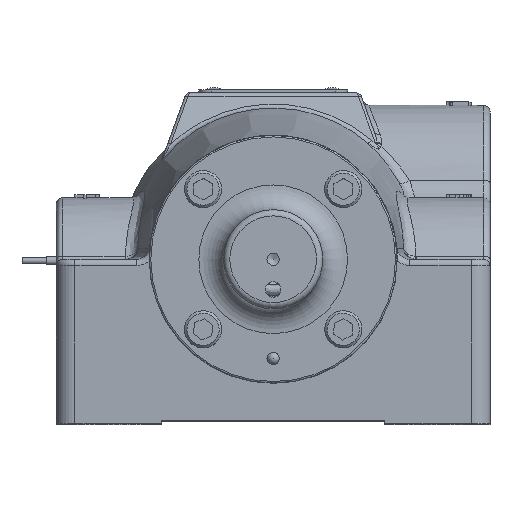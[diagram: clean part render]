
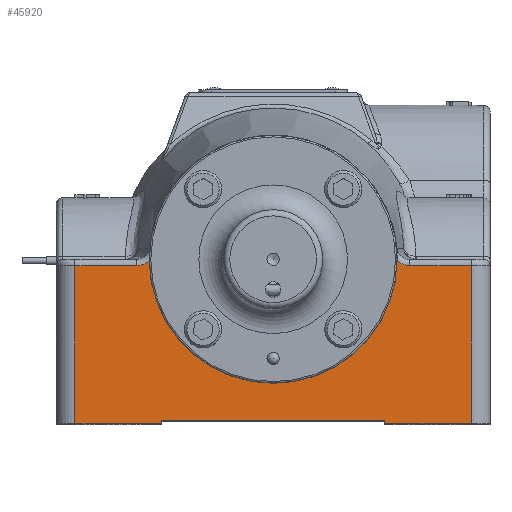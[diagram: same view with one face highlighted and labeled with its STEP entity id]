
A CAD part, top view. The second image highlights one B-rep face of the part: STEP entity #45920.
In plain terms, the highlighted planar face has unit normal (0, 0, 1).
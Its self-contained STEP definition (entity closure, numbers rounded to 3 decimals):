
#3918=CIRCLE('',#50378,3.178);
#6777=FACE_OUTER_BOUND('',#9621,.T.);
#9621=EDGE_LOOP('',(#38833,#38834,#38835,#38836,#38837,#38838,#38839,#38840,
#38841,#38842,#38843,#38844));
#12133=LINE('',#84614,#14877);
#12199=LINE('',#85757,#14943);
#12204=LINE('',#85770,#14948);
#12207=LINE('',#85774,#14951);
#12208=LINE('',#85776,#14952);
#12220=LINE('',#85828,#14964);
#12226=LINE('',#85885,#14970);
#12228=LINE('',#86059,#14972);
#12236=LINE('',#86305,#14980);
#14877=VECTOR('',#61007,1.);
#14943=VECTOR('',#61259,1.);
#14948=VECTOR('',#61272,1.);
#14951=VECTOR('',#61277,1.);
#14952=VECTOR('',#61280,1.);
#14964=VECTOR('',#61320,1.);
#14970=VECTOR('',#61398,1.);
#14972=VECTOR('',#61406,1.);
#14980=VECTOR('',#61502,1.);
#16377=B_SPLINE_CURVE_WITH_KNOTS('',3,(#85991,#85992,#85993,#85994,#85995),
 .UNSPECIFIED.,.F.,.F.,(4,1,4),(0.,0.291,0.347),
 .UNSPECIFIED.);
#16385=B_SPLINE_CURVE_WITH_KNOTS('',3,(#86178,#86179,#86180,#86181),
 .UNSPECIFIED.,.F.,.F.,(4,4),(0.356,0.703),
 .UNSPECIFIED.);
#19912=VERTEX_POINT('',#84598);
#19918=VERTEX_POINT('',#84612);
#19975=VERTEX_POINT('',#85754);
#19976=VERTEX_POINT('',#85756);
#19978=VERTEX_POINT('',#85766);
#19980=VERTEX_POINT('',#85769);
#19997=VERTEX_POINT('',#85827);
#20011=VERTEX_POINT('',#85881);
#20015=VERTEX_POINT('',#85963);
#20020=VERTEX_POINT('',#86052);
#20023=VERTEX_POINT('',#86057);
#20046=VERTEX_POINT('',#86173);
#25881=EDGE_CURVE('',#19912,#19918,#12133,.T.);
#26006=EDGE_CURVE('',#19976,#19975,#12199,.T.);
#26012=EDGE_CURVE('',#19980,#19978,#12204,.T.);
#26015=EDGE_CURVE('',#19918,#19976,#12207,.T.);
#26016=EDGE_CURVE('',#19975,#19980,#12208,.T.);
#26038=EDGE_CURVE('',#19912,#19997,#12220,.T.);
#26067=EDGE_CURVE('',#19997,#20011,#12226,.T.);
#26072=EDGE_CURVE('',#20011,#20015,#16377,.T.);
#26081=EDGE_CURVE('',#20023,#20020,#12228,.T.);
#26118=EDGE_CURVE('',#20046,#20023,#16385,.T.);
#26130=EDGE_CURVE('',#20020,#19978,#12236,.T.);
#26191=EDGE_CURVE('',#20015,#20046,#3918,.T.);
#38833=ORIENTED_EDGE('',*,*,#26012,.T.);
#38834=ORIENTED_EDGE('',*,*,#26130,.F.);
#38835=ORIENTED_EDGE('',*,*,#26081,.F.);
#38836=ORIENTED_EDGE('',*,*,#26118,.F.);
#38837=ORIENTED_EDGE('',*,*,#26191,.F.);
#38838=ORIENTED_EDGE('',*,*,#26072,.F.);
#38839=ORIENTED_EDGE('',*,*,#26067,.F.);
#38840=ORIENTED_EDGE('',*,*,#26038,.F.);
#38841=ORIENTED_EDGE('',*,*,#25881,.T.);
#38842=ORIENTED_EDGE('',*,*,#26015,.T.);
#38843=ORIENTED_EDGE('',*,*,#26006,.T.);
#38844=ORIENTED_EDGE('',*,*,#26016,.T.);
#40914=PLANE('',#50507);
#45920=ADVANCED_FACE('',(#6777),#40914,.T.);
#50378=AXIS2_PLACEMENT_3D('',#86941,#61576,#61577);
#50507=AXIS2_PLACEMENT_3D('',#101696,#62046,#62047);
#61007=DIRECTION('',(1.,0.,0.));
#61259=DIRECTION('',(1.,0.,0.));
#61272=DIRECTION('',(1.,0.,0.));
#61277=DIRECTION('',(0.,1.,0.));
#61280=DIRECTION('',(0.,-1.,0.));
#61320=DIRECTION('',(0.,1.,0.));
#61398=DIRECTION('',(1.,0.,0.));
#61406=DIRECTION('',(1.,0.,0.));
#61502=DIRECTION('',(0.,-1.,0.));
#61576=DIRECTION('center_axis',(0.,0.,1.));
#61577=DIRECTION('ref_axis',(-1.,0.,0.));
#62046=DIRECTION('center_axis',(0.,0.,1.));
#62047=DIRECTION('ref_axis',(1.,0.,0.));
#84598=CARTESIAN_POINT('',(-5.08,-4.207,8.652));
#84612=CARTESIAN_POINT('',(-2.858,-4.207,8.652));
#84614=CARTESIAN_POINT('',(0.,-4.207,8.652));
#85754=CARTESIAN_POINT('',(2.858,-4.128,8.652));
#85756=CARTESIAN_POINT('',(-2.858,-4.128,8.652));
#85757=CARTESIAN_POINT('',(0.,-4.128,8.652));
#85766=CARTESIAN_POINT('',(5.08,-4.207,8.652));
#85769=CARTESIAN_POINT('',(2.858,-4.207,8.652));
#85770=CARTESIAN_POINT('',(0.,-4.207,8.652));
#85774=CARTESIAN_POINT('',(-2.858,-4.247,8.652));
#85776=CARTESIAN_POINT('',(2.858,-4.247,8.652));
#85827=CARTESIAN_POINT('',(-5.08,-0.159,8.652));
#85828=CARTESIAN_POINT('',(-5.08,-3.215,8.652));
#85881=CARTESIAN_POINT('',(-3.497,-0.159,8.652));
#85885=CARTESIAN_POINT('',(0.,-0.159,8.652));
#85963=CARTESIAN_POINT('',(-3.177,-0.037,8.652));
#85991=CARTESIAN_POINT('Ctrl Pts',(-3.497,-0.159,
8.652));
#85992=CARTESIAN_POINT('Ctrl Pts',(-3.4,-0.159,
8.652));
#85993=CARTESIAN_POINT('Ctrl Pts',(-3.283,-0.122,
8.652));
#85994=CARTESIAN_POINT('Ctrl Pts',(-3.192,-0.05,
8.652));
#85995=CARTESIAN_POINT('Ctrl Pts',(-3.178,-0.037,
8.652));
#86052=CARTESIAN_POINT('',(5.08,-0.159,8.652));
#86057=CARTESIAN_POINT('',(3.497,-0.159,8.652));
#86059=CARTESIAN_POINT('',(0.,-0.159,8.652));
#86173=CARTESIAN_POINT('',(3.177,-0.037,8.652));
#86178=CARTESIAN_POINT('Ctrl Pts',(3.178,-0.037,
8.652));
#86179=CARTESIAN_POINT('Ctrl Pts',(3.265,-0.114,
8.652));
#86180=CARTESIAN_POINT('Ctrl Pts',(3.381,-0.159,
8.652));
#86181=CARTESIAN_POINT('Ctrl Pts',(3.497,-0.159,
8.652));
#86305=CARTESIAN_POINT('',(5.08,-3.215,8.652));
#86941=CARTESIAN_POINT('Origin',(0.,0.,8.652));
#101696=CARTESIAN_POINT('Origin',(0.,-4.286,8.652));
